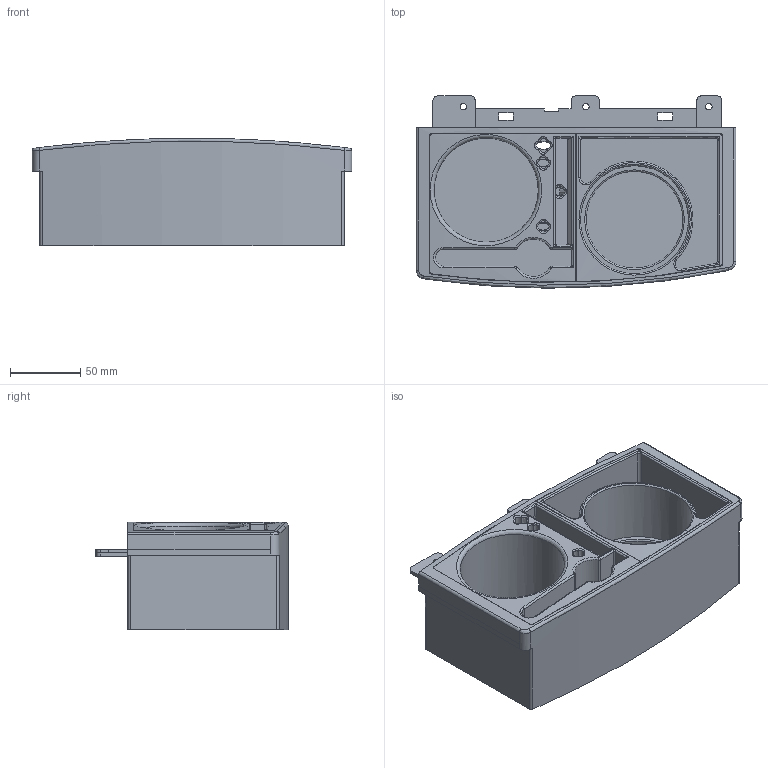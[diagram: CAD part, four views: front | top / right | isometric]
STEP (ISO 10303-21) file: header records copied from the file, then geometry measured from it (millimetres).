
FILE_DESCRIPTION(/* description */ (''),/* implementation_level */ '2;1');
FILE_NAME(/* name */ '/Users/cedar/Downloads/cupholder/Cup Holder v26.step',/* time_stamp */ '2022-02-04T21:43:20-06:00',/* author */ (''),/* organization */ (''),/* preprocessor_version */ 'ST-DEVELOPER v18.1',/* originating_system */ 'Autodesk Translation Framework v10.13.0.1454',/* authorisation */ '');
FILE_SCHEMA (('AUTOMOTIVE_DESIGN { 1 0 10303 214 3 1 1 }'));
Length unit declared in the file: millimetre
Products named in the file (4): Cup Holder; Cupholder; Left Insert; Right Insert
Assembly tree (3 placements, depth 3):
  Cup Holder
    Cupholder
      Left Insert
      Right Insert
Bounding box: 227 x 136.49 x 76.25 mm (x, y, z)
Volume: 880779.6 mm3; surface area: 302078.9 mm2
Topology: 3 solids, 3 shells, 291 faces, 789 edges, 494 vertices
Faces by surface type: plane 136, cylinder 77, bspline 63, torus 13, cone 2
Full cylindrical faces by diameter (mm): 4.619 x3, 68.75 x1, 73.85 x1, 76.75 x1
Entity records: 13040 total; most frequent: CARTESIAN_POINT 6008, ORIENTED_EDGE 1560, DIRECTION 1273, EDGE_CURVE 780, VERTEX_POINT 494, AXIS2_PLACEMENT_3D 431, LINE 411, VECTOR 411
